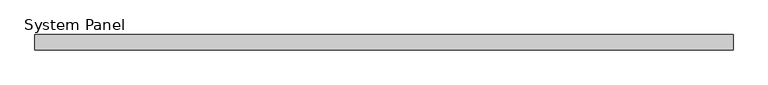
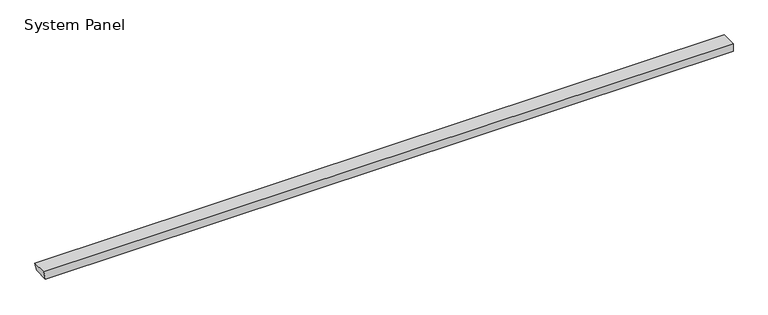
"""IFC4 building model written with IfcOpenShell, lengths in millimetres: plate geometry, System Panel : Equitilt_FlameGuard_150mm_Plain_Surfmist."""

from ifc_helpers import new_model, si_unit, frame, origin, place, context, project, spatial, polyline, outline, extrude, source, transform, mapped, element, save


def system_panel_23bc3fd8(model_context):
    return source(origin(), model_context, "Body", "SweptSolid", [
        extrude(outline(polyline([(0.0, -3377.6149856), (0.0, 3395.0), (79.9704237, 3395.0), (79.9704237, -3395.0), (0.0, -3377.6149856)])), frame((0.0, -150.0, 0.0), z_axis=(0.0, 1.0, 0.0), x_axis=(0.0, 0.0, 1.0)), (0.0, 0.0, 1.0), 150.0),
    ])


if __name__ == "__main__":
    model = new_model("IFC4")
    model_context = context("Model", 3, world=origin())
    ifc_project = project(units=[si_unit("LENGTHUNIT", "METRE", prefix="MILLI")], contexts=[model_context])
    site = spatial("IfcSite", under=ifc_project)
    building = spatial("IfcBuilding", under=site)
    placement = place(None, origin())
    system_panel_shape = system_panel_23bc3fd8(model_context)
    element("IfcPlate", 1, ObjectType="System Panel : Equitilt_FlameGuard_150mm_Plain_Surfmist", at=placement, inside=building, context=model_context, shape_type="MappedRepresentation", body=[
        mapped(system_panel_shape, transform((0.0, 0.0, 0.0), x_axis=(1.0, 0.0, 0.0), y_axis=(0.0, 1.0, 0.0), z_axis=(0.0, 0.0, 1.0))),
    ])
    save(model, "model.ifc")
